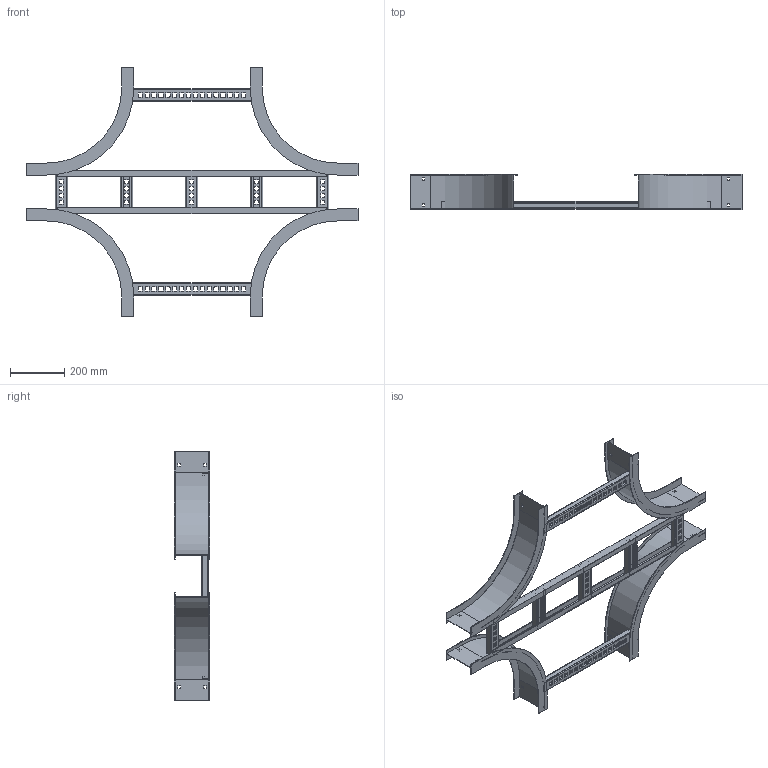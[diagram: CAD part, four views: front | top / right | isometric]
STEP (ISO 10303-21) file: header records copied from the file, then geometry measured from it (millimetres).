
FILE_DESCRIPTION((''),'2;1');
FILE_NAME('AHF50618LEX12_ASM','2010-01-27T',('erouzier'),(''),'PRO/ENGINEER BY PARAMETRIC TECHNOLOGY CORPORATION, 2008510','PRO/ENGINEER BY PARAMETRIC TECHNOLOGY CORPORATION, 2008510','');
FILE_SCHEMA(('CONFIG_CONTROL_DESIGN'));
Length unit declared in the file: inch
Products named in the file (10): CDS001811-5-90-12-I; CDS002159L6-P_AF8; CDS002159L6-P_AF9; CDS002159L6-P_AF10; CDS002159L6-P_AF11; CDS002159L6-P_AF12; CDS000495_GEN_AF14; CDS000495_GEN_AF15; CDS002159L18-P; AHF50618LEX12_ASM
Assembly tree (13 placements, depth 2):
  AHF50618LEX12_ASM
    CDS001811-5-90-12-I  x4
    CDS002159L6-P_AF8
    CDS002159L6-P_AF9
    CDS002159L6-P_AF10
    CDS002159L6-P_AF11
    CDS002159L6-P_AF12
    CDS000495_GEN_AF14
    CDS000495_GEN_AF15
    CDS002159L18-P  x2
Bounding box: 1223.26 x 129.03 x 918.46 mm (x, y, z)
Volume: 1662594.4 mm3; surface area: 1734069.7 mm2
Topology: 13 solids, 13 shells, 814 faces, 2364 edges, 1576 vertices
Faces by surface type: plane 505, cylinder 309
Entity records: 17955 total; most frequent: CARTESIAN_POINT 3113, DIRECTION 3074, ORIENTED_EDGE 3072, EDGE_CURVE 1536, VECTOR 1104, LINE 1104, VERTEX_POINT 1024, AXIS2_PLACEMENT_3D 985
